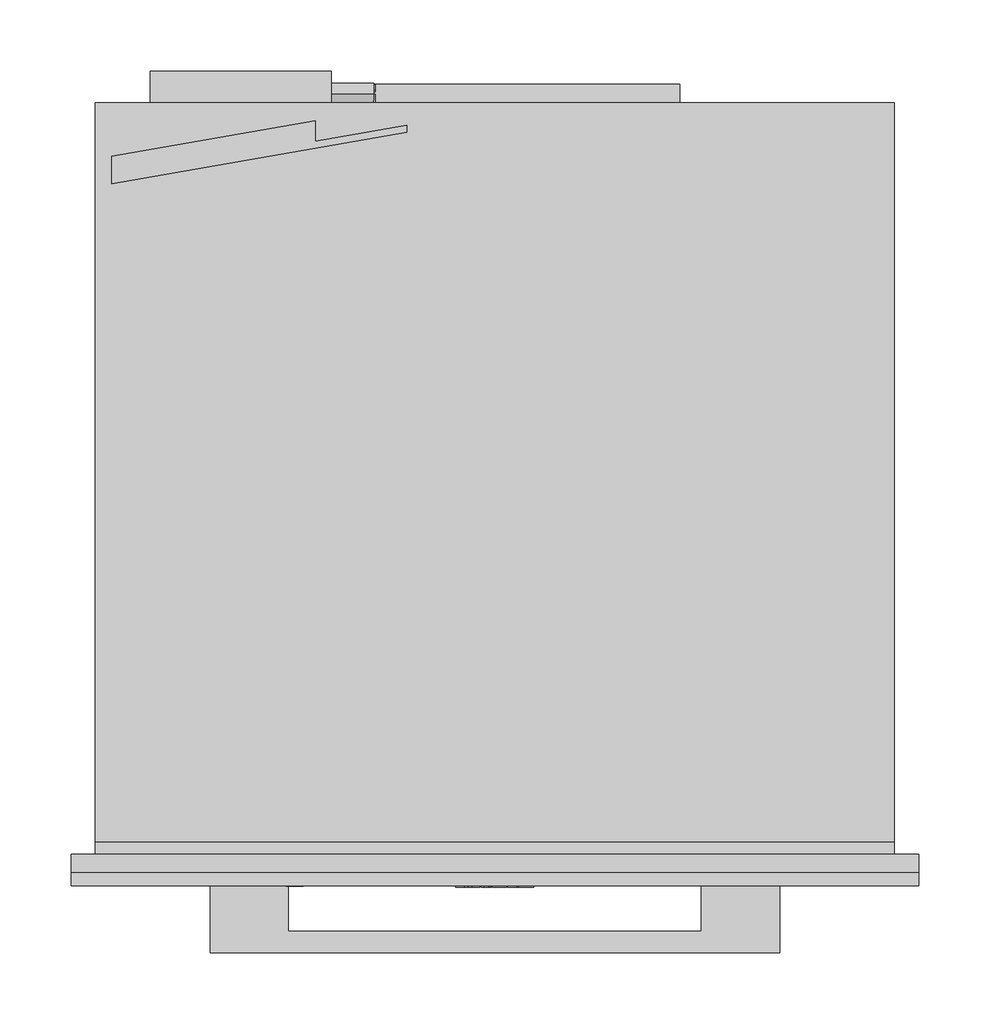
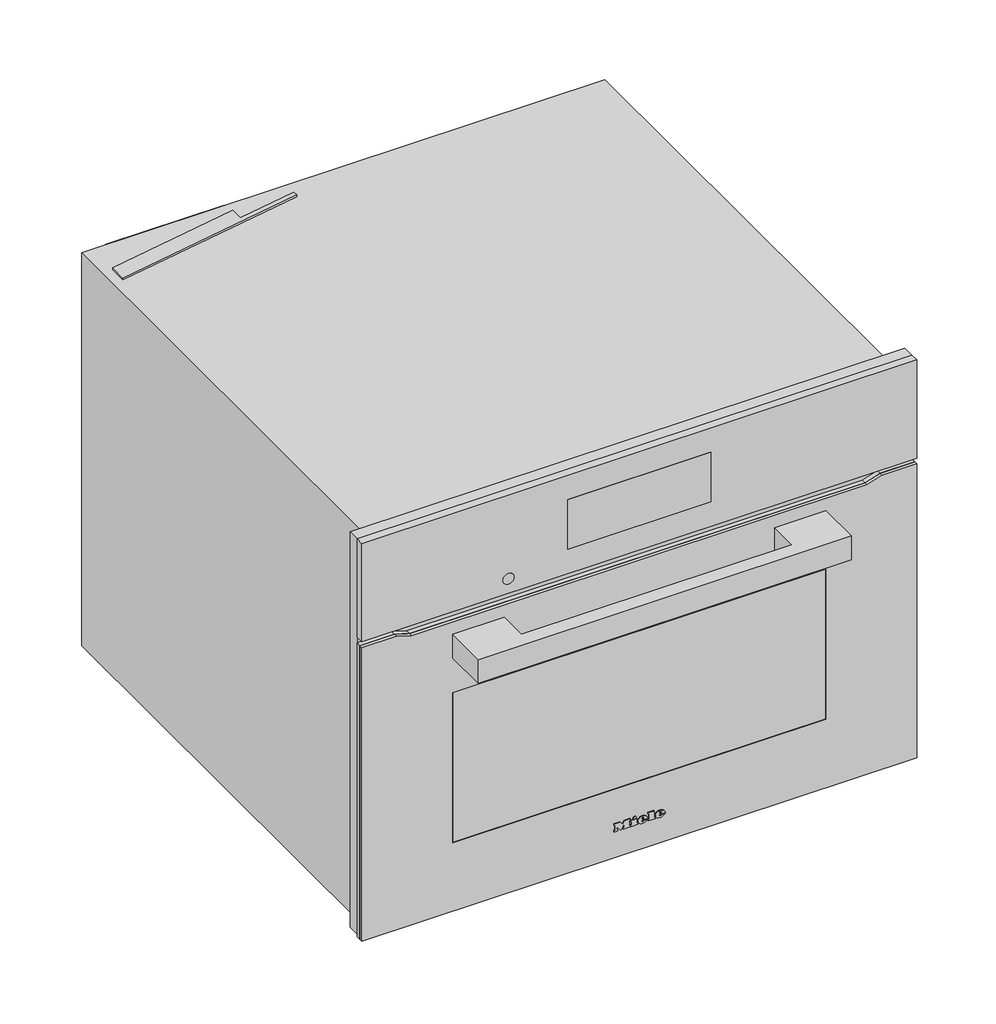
# Not in any storey: 1 proxy.
"""IFC4 building model written with IfcOpenShell, lengths in millimetres."""

from ifc_helpers import new_model, si_unit, origin, place, context, project, spatial, transform, mapped, element, save
from components import specialty_equipment_e790b6b2

model = new_model("IFC4")

# Units and contexts
model_context = context("Model", 3, world=origin())
ifc_project = project(units=[si_unit("LENGTHUNIT", "METRE", prefix="MILLI")], contexts=[model_context])

# Site, building
site = spatial("IfcSite", under=ifc_project)
building = spatial("IfcBuilding", under=site)

# Proxy
placement = place(None, origin())
specialty_equipment_shape = specialty_equipment_e790b6b2(model_context)
element("IfcBuildingElementProxy", 1, Name="11804660_USA_H7840BM_OBSW : 22784026_USA_11804660_H7840BM_OBSW", ObjectType="11804660_USA_H7840BM_OBSW : 22784026_USA_11804660_H7840BM_OBSW", at=placement, inside=building, context=model_context, shape_type="MappedRepresentation", body=[
    mapped(specialty_equipment_shape, transform((0.0, 0.0, 0.0), x_axis=(1.0, 0.0, 0.0), y_axis=(0.0, 1.0, 0.0), z_axis=(0.0, 0.0, 1.0))),
])

save(model, "model.ifc")
